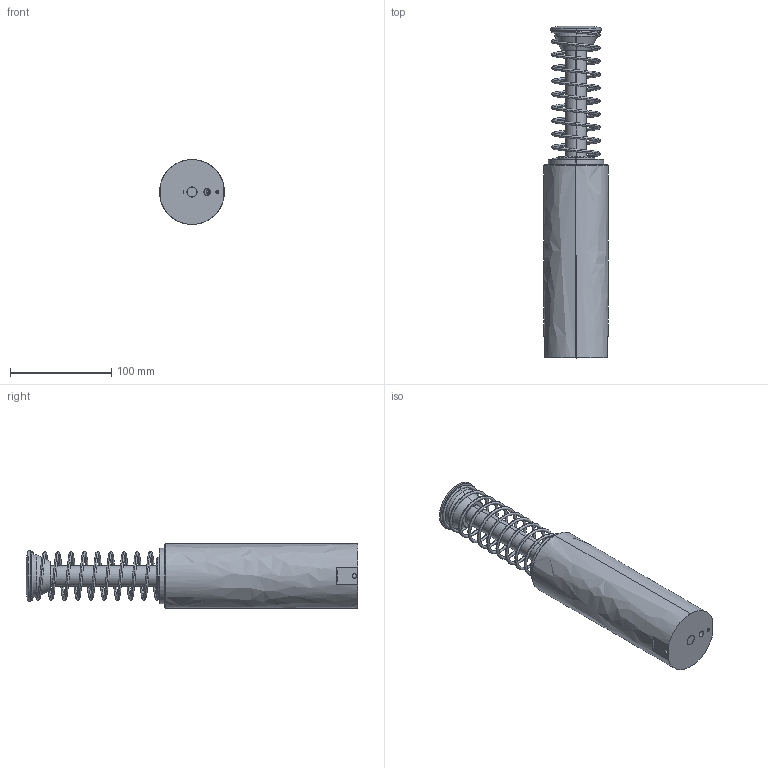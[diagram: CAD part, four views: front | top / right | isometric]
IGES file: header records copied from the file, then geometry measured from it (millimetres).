
Start section: SolidWorks IGES file using analytic representation for surfaces
Bounding box: 64 x 328 x 64 mm (x, y, z)
Surface area: 82301.5 mm2 (no closed solid volume)
Topology: 0 solids, 0 shells, 90 faces, 1870 edges, 1870 vertices
Faces by surface type: revolution 52, bspline 38
